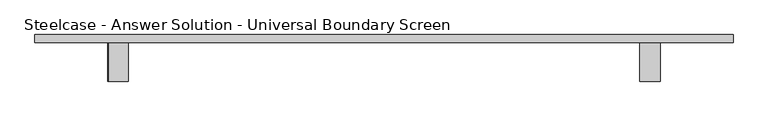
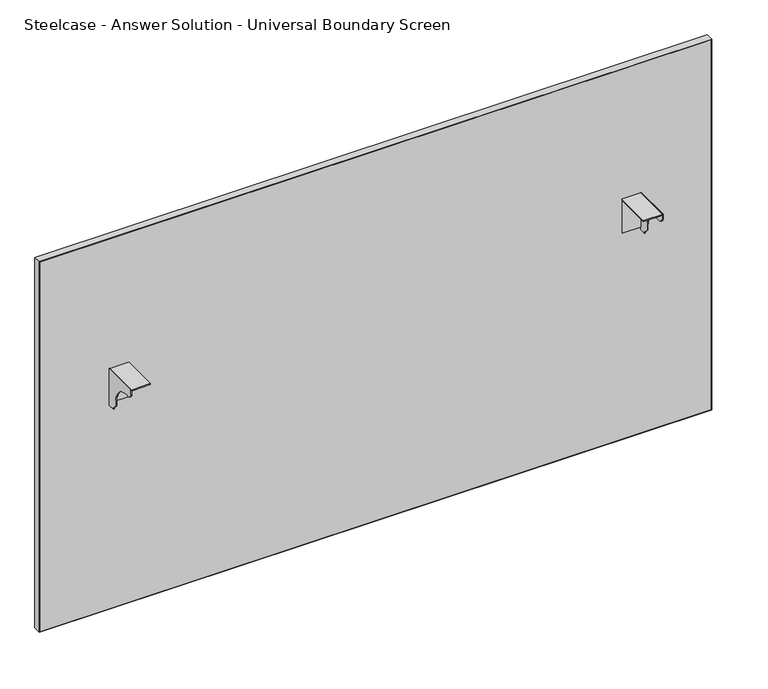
"""IFC4 building model written with IfcOpenShell, lengths in millimetres: furniture geometry, Steelcase - Answer Solution - Universal Boundary Screen : 42H x 72W."""

from ifc_helpers import new_model, si_unit, point, frame, frame_2d, origin, place, context, project, spatial, polyline, circle_curve, trimmed, segment, composite_curve, outline, extrude, source, transform, mapped, element, save


def steelcase_answer_solution_universal_boundary_screen_995686ff(model_context):
    return source(origin(), model_context, "Body", "SweptSolid", [
        extrude(outline(polyline([(-103.1670434, 689.3558876), (-103.1670434, 692.1499758), (-1.5668826, 692.1499758), (-1.5668826, 595.5029317), (-4.1079736, 595.5029317), (-4.1079736, 689.3558876), (-103.1670434, 689.3558876)])), frame((1200.6336711, 0.0, 0.0), z_axis=(1.0, 0.0, 0.0), x_axis=(0.0, 1.0, 0.0)), (0.0, 0.0, 1.0), 53.3444116),
        extrude(outline(composite_curve([segment(polyline([(-103.1670434, 679.2814802), (-103.1670434, 692.1499758), (-1.5668826, 692.1499758), (-1.5668826, 586.9634093), (-19.8232934, 586.9634093), (-19.8232934, 589.7574248), (-32.0458032, 601.9799346), (-32.0458032, 615.7814802)]), True, "CONTINUOUS"), segment(trimmed(circle_curve(frame_2d((-82.8458032, 615.7814802)), 50.8), [point((-32.0458032, 615.7814802))], [point((-82.8458032, 666.5814802))], True, "CARTESIAN"), True, "CONTINUOUS"), segment(polyline([(-82.8458032, 666.5814802), (-90.4670434, 666.5814802)]), True, "CONTINUOUS"), segment(trimmed(circle_curve(frame_2d((-90.4670434, 679.2814802)), 12.7), [point((-90.4670434, 666.5814802))], [point((-103.1670434, 679.2814802))], False, "CARTESIAN"), True, "CONTINUOUS")], self_intersect=False)), frame((1251.4328959, 0.0, 0.0), z_axis=(1.0, 0.0, 0.0), x_axis=(0.0, 1.0, 0.0)), (0.0, 0.0, 1.0), 2.5451868),
        extrude(outline(polyline([(-103.1670434, 689.3558876), (-103.1670434, 692.1499758), (-1.5668826, 692.1499758), (-1.5668826, 595.5029317), (-4.1079736, 595.5029317), (-4.1079736, 689.3558876), (-103.1670434, 689.3558876)])), frame((-191.2767306, 0.0, 0.0), z_axis=(1.0, 0.0, 0.0), x_axis=(0.0, 1.0, 0.0)), (0.0, 0.0, 1.0), 50.7992249),
        extrude(outline(composite_curve([segment(polyline([(-103.1670434, 679.2814802), (-103.1670434, 692.1499758), (-1.5668826, 692.1499758), (-1.5668826, 586.9634093), (-19.8232934, 586.9634093), (-19.8232934, 589.7574248), (-32.0458032, 601.9799346), (-32.0458032, 615.7814802)]), True, "CONTINUOUS"), segment(trimmed(circle_curve(frame_2d((-82.8458032, 615.7814802)), 50.8), [point((-32.0458032, 615.7814802))], [point((-82.8458032, 666.5814802))], True, "CARTESIAN"), True, "CONTINUOUS"), segment(polyline([(-82.8458032, 666.5814802), (-90.4670434, 666.5814802)]), True, "CONTINUOUS"), segment(trimmed(circle_curve(frame_2d((-90.4670434, 679.2814802)), 12.7), [point((-90.4670434, 666.5814802))], [point((-103.1670434, 679.2814802))], False, "CARTESIAN"), True, "CONTINUOUS")], self_intersect=False)), frame((-193.8219173, 0.0, 0.0), z_axis=(1.0, 0.0, 0.0), x_axis=(0.0, 1.0, 0.0)), (0.0, 0.0, 1.0), 2.5451868),
        extrude(outline(polyline([(-383.3293422, 18.9055112), (1443.4855076, 18.9055112), (1443.4855076, -1.5668826), (-383.3293422, -1.5668826), (-383.3293422, 18.9055112)])), frame((0.0, 0.0, 1.016), z_axis=(0.0, 0.0, 1.0), x_axis=(1.0, 0.0, 0.0)), (0.0, 0.0, 1.0), 1064.7914249),
        extrude(outline(polyline([(1066.8, 1444.4780827), (1066.8, -384.3219173), (0.0, -384.3219173), (0.0, 1444.4780827), (1066.8, 1444.4780827)]), holes=[polyline([(1065.8074249, 1443.4855076), (1.016, 1443.4855076), (1.016, -383.3293422), (1065.8074249, -383.3293422), (1065.8074249, 1443.4855076)])]), frame((0.0, -1.5668826, 0.0), z_axis=(0.0, 1.0, 0.0), x_axis=(0.0, 0.0, 1.0)), (0.0, 0.0, 1.0), 20.4723938),
    ])


if __name__ == "__main__":
    model = new_model("IFC4")
    model_context = context("Model", 3, world=origin())
    ifc_project = project(units=[si_unit("LENGTHUNIT", "METRE", prefix="MILLI")], contexts=[model_context])
    site = spatial("IfcSite", under=ifc_project)
    building = spatial("IfcBuilding", under=site)
    placement = place(None, origin())
    steelcase_answer_solution_universal_boundary_screen_shape = steelcase_answer_solution_universal_boundary_screen_995686ff(model_context)
    element("IfcFurniture", 1, ObjectType="Steelcase - Answer Solution - Universal Boundary Screen : 42H x 72W", at=placement, inside=building, context=model_context, shape_type="MappedRepresentation", body=[
        mapped(steelcase_answer_solution_universal_boundary_screen_shape, transform((0.0, 0.0, 0.0), x_axis=(1.0, 0.0, 0.0), y_axis=(0.0, 1.0, 0.0), z_axis=(0.0, 0.0, 1.0))),
    ])
    save(model, "model.ifc")
